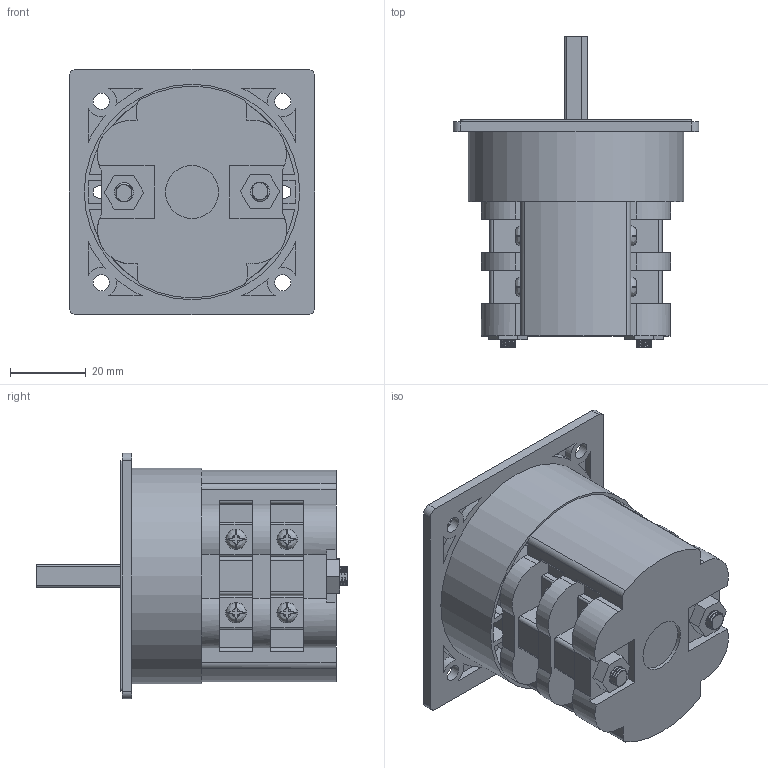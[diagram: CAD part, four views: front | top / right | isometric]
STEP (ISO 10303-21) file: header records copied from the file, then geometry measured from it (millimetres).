
FILE_DESCRIPTION(/* description */ (''),/* implementation_level */ '2;1');
FILE_NAME(/* name */ '4G16,25_standard_2_korpusy.stp',/* time_stamp */ '2021-07-21T13:31:24+02:00',/* author */ (''),/* organization */ (''),/* preprocessor_version */ 'ST-DEVELOPER v18.1',/* originating_system */ 'SIEMENS PLM Software NX 1965',/* authorisation */ '');
FILE_SCHEMA (('AUTOMOTIVE_DESIGN { 1 0 10303 214 3 1 1 1 }'));
Products named in the file (1): 4G16,25_standard_2_korpusy_stp
Bounding box: 65 x 82.2 x 65 mm (x, y, z)
Volume: 124102.4 mm3; surface area: 30497.3 mm2
Topology: 1 solids, 5 shells, 685 faces, 1921 edges, 1268 vertices
Faces by surface type: plane 366, cylinder 216, bspline 86, cone 17
Full cylindrical faces by diameter (mm): 3.3 x3, 4 x4, 4.3 x4, 5 x2, 5.4 x8, 6.5 x2, 7.2 x4, 10 x1, 14 x1, 57 x1
Entity records: 67397 total; most frequent: CARTESIAN_POINT 50693, ORIENTED_EDGE 3696, DIRECTION 3063, EDGE_CURVE 1848, VERTEX_POINT 1239, AXIS2_PLACEMENT_3D 1081, LINE 901, VECTOR 901
